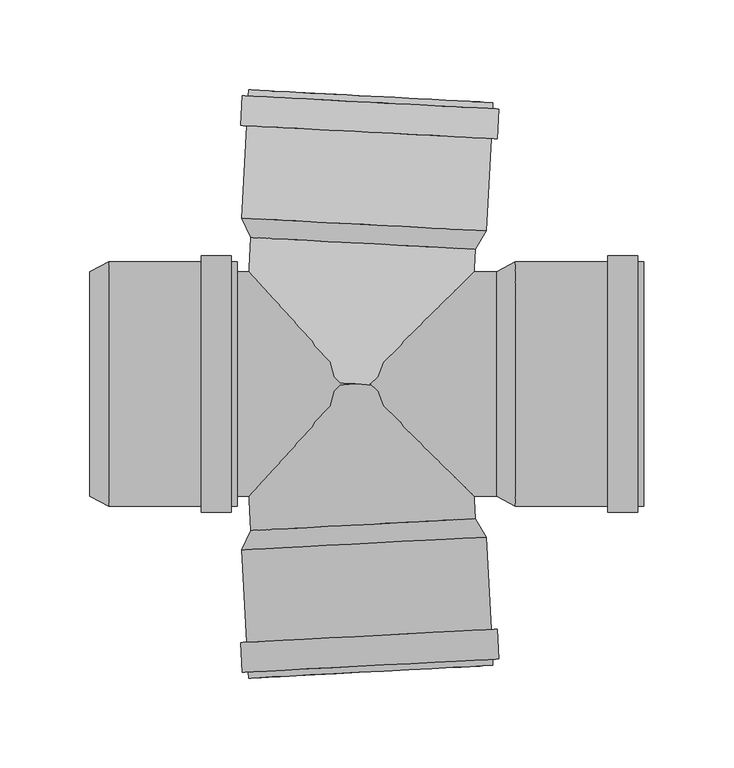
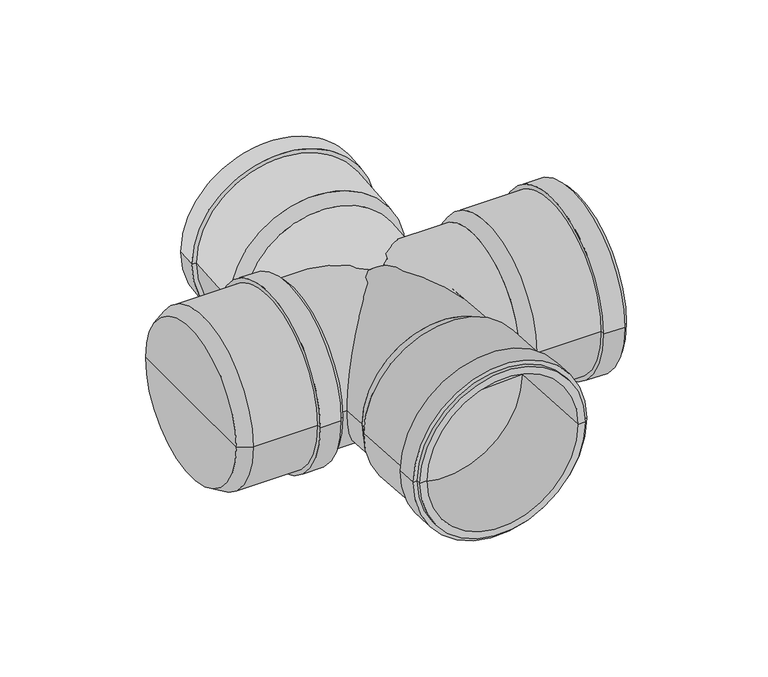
"""IFC4 building model written with IfcOpenShell, lengths in millimetres: pipe fitting geometry, pf_HTDA : pf_HTDA."""

from ifc_helpers import new_model, si_unit, point, frame, origin, origin_2d, place, context, project, spatial, polyline, circle_curve, trimmed, segment, composite_curve, outline, extrude, source, transform, mapped, element, save
from ifc_brep_helpers import plane_surface, cylinder_surface, revolved_surface, advanced_brep


def pipe_fitting_0927ca27(model_context):
    return source(origin(), model_context, "Body", "SolidModel", [
        advanced_brep(
        [(66.5174849, 75.0215583, 0.0), (-58.311207, 81.5635528, 0.0), (-63.3540048, 92.3422443, 0.0), (72.6593378, 85.214087, 0.0), (4.103139, 78.2925555, 0.0), (76.4013587, 156.6160988, 0.0), (-59.6119839, 163.744256, 0.0), (-54.0196585, 163.4511746, 0.0), (70.8090333, 156.9091801, 0.0), (76.2234164, 153.2207583, 0.0), (-59.7899262, 160.3489156, 0.0), (79.6187569, 153.0428161, 0.0), (-63.1852666, 160.5268578, 0.0), (78.74998, 136.4655658, 0.0), (-64.0540435, 143.9496076, 0.0), (75.3546396, 136.6435081, 0.0), (-60.6587031, 143.7716653, 0.0), (67.0670124, 85.5071684, 0.0), (-57.7616794, 92.0491629, 0.0), (4.6526665, 88.7781656, 0.0)],
        [
            (0, 1, circle_curve(frame((4.103139, 78.2925555, 0.0), z_axis=(0.05233595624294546, 0.9986295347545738, 0.0), x_axis=(-0.9986295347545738, 0.05233595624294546, 0.0)), 62.5)),
            (1, 2),
            (2, 3, circle_curve(frame((4.6526665, 88.7781656, 0.0), z_axis=(-0.05233595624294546, -0.9986295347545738, 0.0), x_axis=(-0.9986295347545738, 0.05233595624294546, 0.0)), 68.1)),
            (3, 0),
            (1, 0, circle_curve(frame((4.103139, 78.2925555, 0.0), z_axis=(0.05233595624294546, 0.9986295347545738, 0.0), x_axis=(-0.9986295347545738, 0.05233595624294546, 0.0)), 62.5)),
            (3, 2, circle_curve(frame((4.6526665, 88.7781656, 0.0), z_axis=(-0.05233595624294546, -0.9986295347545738, 0.0), x_axis=(-0.9986295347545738, 0.05233595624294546, 0.0)), 68.1)),
            (4, 1),
            (0, 4),
            (5, 6, circle_curve(frame((8.3946874, 160.1801774, 0.0), z_axis=(0.05233595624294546, 0.9986295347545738, 0.0), x_axis=(-0.9986295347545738, 0.05233595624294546, 0.0)), 68.1)),
            (6, 7),
            (7, 8, circle_curve(frame((8.3946874, 160.1801774, 0.0), z_axis=(-0.05233595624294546, -0.9986295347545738, 0.0), x_axis=(-0.9986295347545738, 0.05233595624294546, 0.0)), 62.5)),
            (8, 5),
            (6, 5, circle_curve(frame((8.3946874, 160.1801774, 0.0), z_axis=(0.05233595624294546, 0.9986295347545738, 0.0), x_axis=(-0.9986295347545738, 0.05233595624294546, 0.0)), 68.1)),
            (8, 7, circle_curve(frame((8.3946874, 160.1801774, 0.0), z_axis=(-0.05233595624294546, -0.9986295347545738, 0.0), x_axis=(-0.9986295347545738, 0.05233595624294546, 0.0)), 62.5)),
            (9, 10, circle_curve(frame((8.2167451, 156.784837, 0.0), z_axis=(0.05233595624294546, 0.9986295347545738, 0.0), x_axis=(-0.9986295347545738, 0.05233595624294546, 0.0)), 68.1)),
            (10, 6),
            (5, 9),
            (10, 9, circle_curve(frame((8.2167451, 156.784837, 0.0), z_axis=(0.05233595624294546, 0.9986295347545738, 0.0), x_axis=(-0.9986295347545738, 0.05233595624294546, 0.0)), 68.1)),
            (11, 12, circle_curve(frame((8.2167451, 156.784837, 0.0), z_axis=(0.05233595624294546, 0.9986295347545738, 0.0), x_axis=(-0.9986295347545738, 0.05233595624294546, 0.0)), 71.5)),
            (12, 10),
            (9, 11),
            (12, 11, circle_curve(frame((8.2167451, 156.784837, 0.0), z_axis=(0.05233595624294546, 0.9986295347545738, 0.0), x_axis=(-0.9986295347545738, 0.05233595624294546, 0.0)), 71.5)),
            (13, 14, circle_curve(frame((7.3479683, 140.2075867, 0.0), z_axis=(0.05233595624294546, 0.9986295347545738, 0.0), x_axis=(-0.9986295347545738, 0.05233595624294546, 0.0)), 71.5)),
            (14, 12),
            (11, 13),
            (14, 13, circle_curve(frame((7.3479683, 140.2075867, 0.0), z_axis=(0.05233595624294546, 0.9986295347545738, 0.0), x_axis=(-0.9986295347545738, 0.05233595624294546, 0.0)), 71.5)),
            (15, 16, circle_curve(frame((7.3479683, 140.2075867, 0.0), z_axis=(0.05233595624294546, 0.9986295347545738, 0.0), x_axis=(-0.9986295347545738, 0.05233595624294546, 0.0)), 68.1)),
            (16, 14),
            (13, 15),
            (16, 15, circle_curve(frame((7.3479683, 140.2075867, 0.0), z_axis=(0.05233595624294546, 0.9986295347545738, 0.0), x_axis=(-0.9986295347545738, 0.05233595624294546, 0.0)), 68.1)),
            (2, 16),
            (15, 3),
            (17, 18, circle_curve(frame((4.6526665, 88.7781656, 0.0), z_axis=(0.05233595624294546, 0.9986295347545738, 0.0), x_axis=(-0.9986295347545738, 0.05233595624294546, 0.0)), 62.5)),
            (18, 19),
            (19, 17),
            (18, 17, circle_curve(frame((4.6526665, 88.7781656, 0.0), z_axis=(0.05233595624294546, 0.9986295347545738, 0.0), x_axis=(-0.9986295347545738, 0.05233595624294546, 0.0)), 62.5)),
            (7, 18),
            (17, 8),
        ],
        [
            revolved_surface(polyline([(-63.3540048, 92.3422443, 0.0), (-58.311207, 81.5635528, 0.0)]), (4.103139, 78.2925555, 0.0), (-0.05233595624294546, -0.9986295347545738, 0.0)),
            plane_surface(frame((4.103139, 78.2925555, 0.0), z_axis=(-0.05233595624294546, -0.9986295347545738, 0.0), x_axis=(-0.9986295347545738, 0.05233595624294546, 0.0))),
            plane_surface(frame((8.3946874, 160.1801774, 0.0), z_axis=(0.05233595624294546, 0.9986295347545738, 0.0), x_axis=(-0.9986295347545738, 0.05233595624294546, 0.0))),
            cylinder_surface(frame((4.103139, 78.2925555, 0.0), z_axis=(-0.05233595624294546, -0.9986295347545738, 0.0), x_axis=(-0.9986295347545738, 0.05233595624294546, 0.0)), 68.1),
            plane_surface(frame((8.2167451, 156.784837, 0.0), z_axis=(0.05233595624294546, 0.9986295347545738, 0.0), x_axis=(-0.9986295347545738, 0.05233595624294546, 0.0))),
            cylinder_surface(frame((4.103139, 78.2925555, 0.0), z_axis=(-0.05233595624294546, -0.9986295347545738, 0.0), x_axis=(-0.9986295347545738, 0.05233595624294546, 0.0)), 71.5),
            plane_surface(frame((7.3479683, 140.2075867, 0.0), z_axis=(-0.05233595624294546, -0.9986295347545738, 0.0), x_axis=(-0.9986295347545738, 0.05233595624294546, 0.0))),
            plane_surface(frame((4.6526665, 88.7781656, 0.0), z_axis=(0.05233595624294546, 0.9986295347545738, 0.0), x_axis=(-0.9986295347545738, 0.05233595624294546, 0.0))),
            revolved_surface(polyline([(-57.76167938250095, 92.04916286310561, 0.0), (-54.019658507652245, 163.45117466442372, 0.0)]), (4.103139, 78.2925555, 0.0), (-0.05233595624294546, -0.9986295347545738, 0.0)),
        ],
        [
            (0, [[1, 2, 3, 4]]),
            (0, [[5, -4, 6, -2]]),
            (1, [[7, -1, 8]]),
            (1, [[-8, -5, -7]]),
            (2, [[9, 10, 11, 12]]),
            (2, [[13, -12, 14, -10]]),
            (3, [[15, 16, -9, 17]]),
            (3, [[18, -17, -13, -16]]),
            (4, [[19, 20, -15, 21]]),
            (4, [[22, -21, -18, -20]]),
            (5, [[23, 24, -19, 25]]),
            (5, [[26, -25, -22, -24]]),
            (6, [[27, 28, -23, 29]]),
            (6, [[30, -29, -26, -28]]),
            (3, [[-3, 31, -27, 32]]),
            (3, [[-6, -32, -30, -31]]),
            (7, [[33, 34, 35]]),
            (7, [[36, -35, -34]]),
            (8, [[-11, 37, -33, 38]]),
            (8, [[-14, -38, -36, -37]]),
        ],
    ),
        advanced_brep(
        [(-58.311207, -81.5635528, 0.0), (66.5174849, -75.0215583, 0.0), (72.6593378, -85.214087, 0.0), (-63.3540048, -92.3422443, 0.0), (4.103139, -78.2925555, 0.0), (-59.6119839, -163.744256, 0.0), (76.4013587, -156.6160988, 0.0), (70.8090333, -156.9091801, 0.0), (-54.0196585, -163.4511746, 0.0), (-59.7899262, -160.3489156, 0.0), (76.2234164, -153.2207583, 0.0), (-63.1852666, -160.5268578, 0.0), (79.6187569, -153.0428161, 0.0), (-64.0540435, -143.9496076, 0.0), (78.74998, -136.4655658, 0.0), (-60.6587031, -143.7716653, 0.0), (75.3546396, -136.6435081, 0.0), (-57.7616794, -92.0491629, 0.0), (67.0670124, -85.5071684, 0.0), (4.6526665, -88.7781656, 0.0)],
        [
            (0, 1, circle_curve(frame((4.103139, -78.2925555, 0.0), z_axis=(0.05233595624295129, -0.9986295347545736, 0.0), x_axis=(0.9986295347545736, 0.05233595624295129, 0.0)), 62.5)),
            (1, 2),
            (2, 3, circle_curve(frame((4.6526665, -88.7781656, 0.0), z_axis=(-0.05233595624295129, 0.9986295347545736, 0.0), x_axis=(0.9986295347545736, 0.05233595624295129, 0.0)), 68.1)),
            (3, 0),
            (1, 0, circle_curve(frame((4.103139, -78.2925555, 0.0), z_axis=(0.05233595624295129, -0.9986295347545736, 0.0), x_axis=(0.9986295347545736, 0.05233595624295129, 0.0)), 62.5)),
            (3, 2, circle_curve(frame((4.6526665, -88.7781656, 0.0), z_axis=(-0.05233595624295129, 0.9986295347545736, 0.0), x_axis=(0.9986295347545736, 0.05233595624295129, 0.0)), 68.1)),
            (4, 1),
            (0, 4),
            (5, 6, circle_curve(frame((8.3946874, -160.1801774, 0.0), z_axis=(0.05233595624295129, -0.9986295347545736, 0.0), x_axis=(0.9986295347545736, 0.05233595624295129, 0.0)), 68.1)),
            (6, 7),
            (7, 8, circle_curve(frame((8.3946874, -160.1801774, 0.0), z_axis=(-0.05233595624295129, 0.9986295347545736, 0.0), x_axis=(0.9986295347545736, 0.05233595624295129, 0.0)), 62.5)),
            (8, 5),
            (6, 5, circle_curve(frame((8.3946874, -160.1801774, 0.0), z_axis=(0.05233595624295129, -0.9986295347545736, 0.0), x_axis=(0.9986295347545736, 0.05233595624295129, 0.0)), 68.1)),
            (8, 7, circle_curve(frame((8.3946874, -160.1801774, 0.0), z_axis=(-0.05233595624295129, 0.9986295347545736, 0.0), x_axis=(0.9986295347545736, 0.05233595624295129, 0.0)), 62.5)),
            (9, 10, circle_curve(frame((8.2167451, -156.784837, 0.0), z_axis=(0.05233595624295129, -0.9986295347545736, 0.0), x_axis=(0.9986295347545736, 0.05233595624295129, 0.0)), 68.1)),
            (10, 6),
            (5, 9),
            (10, 9, circle_curve(frame((8.2167451, -156.784837, 0.0), z_axis=(0.05233595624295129, -0.9986295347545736, 0.0), x_axis=(0.9986295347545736, 0.05233595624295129, 0.0)), 68.1)),
            (11, 12, circle_curve(frame((8.2167451, -156.784837, 0.0), z_axis=(0.05233595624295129, -0.9986295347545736, 0.0), x_axis=(0.9986295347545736, 0.05233595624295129, 0.0)), 71.5)),
            (12, 10),
            (9, 11),
            (12, 11, circle_curve(frame((8.2167451, -156.784837, 0.0), z_axis=(0.05233595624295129, -0.9986295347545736, 0.0), x_axis=(0.9986295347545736, 0.05233595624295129, 0.0)), 71.5)),
            (13, 14, circle_curve(frame((7.3479683, -140.2075867, 0.0), z_axis=(0.05233595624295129, -0.9986295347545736, 0.0), x_axis=(0.9986295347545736, 0.05233595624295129, 0.0)), 71.5)),
            (14, 12),
            (11, 13),
            (14, 13, circle_curve(frame((7.3479683, -140.2075867, 0.0), z_axis=(0.05233595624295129, -0.9986295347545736, 0.0), x_axis=(0.9986295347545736, 0.05233595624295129, 0.0)), 71.5)),
            (15, 16, circle_curve(frame((7.3479683, -140.2075867, 0.0), z_axis=(0.05233595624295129, -0.9986295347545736, 0.0), x_axis=(0.9986295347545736, 0.05233595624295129, 0.0)), 68.1)),
            (16, 14),
            (13, 15),
            (16, 15, circle_curve(frame((7.3479683, -140.2075867, 0.0), z_axis=(0.05233595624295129, -0.9986295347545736, 0.0), x_axis=(0.9986295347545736, 0.05233595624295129, 0.0)), 68.1)),
            (2, 16),
            (15, 3),
            (17, 18, circle_curve(frame((4.6526665, -88.7781656, 0.0), z_axis=(0.05233595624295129, -0.9986295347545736, 0.0), x_axis=(0.9986295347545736, 0.05233595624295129, 0.0)), 62.5)),
            (18, 19),
            (19, 17),
            (18, 17, circle_curve(frame((4.6526665, -88.7781656, 0.0), z_axis=(0.05233595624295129, -0.9986295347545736, 0.0), x_axis=(0.9986295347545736, 0.05233595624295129, 0.0)), 62.5)),
            (7, 18),
            (17, 8),
        ],
        [
            revolved_surface(polyline([(72.6593378, -85.214087, 0.0), (66.5174849, -75.0215583, 0.0)]), (4.103139, -78.2925555, 0.0), (-0.05233595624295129, 0.9986295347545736, 0.0)),
            plane_surface(frame((4.103139, -78.2925555, 0.0), z_axis=(-0.05233595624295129, 0.9986295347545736, 0.0), x_axis=(0.9986295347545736, 0.05233595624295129, 0.0))),
            plane_surface(frame((8.3946874, -160.1801774, 0.0), z_axis=(0.05233595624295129, -0.9986295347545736, 0.0), x_axis=(0.9986295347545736, 0.05233595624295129, 0.0))),
            cylinder_surface(frame((4.103139, -78.2925555, 0.0), z_axis=(-0.05233595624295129, 0.9986295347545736, 0.0), x_axis=(0.9986295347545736, 0.05233595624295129, 0.0)), 68.1),
            plane_surface(frame((8.2167451, -156.784837, 0.0), z_axis=(0.05233595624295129, -0.9986295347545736, 0.0), x_axis=(0.9986295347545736, 0.05233595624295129, 0.0))),
            cylinder_surface(frame((4.103139, -78.2925555, 0.0), z_axis=(-0.05233595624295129, 0.9986295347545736, 0.0), x_axis=(0.9986295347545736, 0.05233595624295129, 0.0)), 71.5),
            plane_surface(frame((7.3479683, -140.2075867, 0.0), z_axis=(-0.05233595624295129, 0.9986295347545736, 0.0), x_axis=(0.9986295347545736, 0.05233595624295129, 0.0))),
            plane_surface(frame((4.6526665, -88.7781656, 0.0), z_axis=(0.05233595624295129, -0.9986295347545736, 0.0), x_axis=(0.9986295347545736, 0.05233595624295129, 0.0))),
            revolved_surface(polyline([(67.06701246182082, -85.50716833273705, 0.0), (70.80903333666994, -156.90918013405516, 0.0)]), (4.103139, -78.2925555, 0.0), (-0.05233595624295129, 0.9986295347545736, 0.0)),
        ],
        [
            (0, [[1, 2, 3, 4]]),
            (0, [[5, -4, 6, -2]]),
            (1, [[7, -1, 8]]),
            (1, [[-8, -5, -7]]),
            (2, [[9, 10, 11, 12]]),
            (2, [[13, -12, 14, -10]]),
            (3, [[15, 16, -9, 17]]),
            (3, [[18, -17, -13, -16]]),
            (4, [[19, 20, -15, 21]]),
            (4, [[22, -21, -18, -20]]),
            (5, [[23, 24, -19, 25]]),
            (5, [[26, -25, -22, -24]]),
            (6, [[27, 28, -23, 29]]),
            (6, [[30, -29, -26, -28]]),
            (3, [[-3, 31, -27, 32]]),
            (3, [[-6, -32, -30, -31]]),
            (7, [[33, 34, 35]]),
            (7, [[36, -35, -34]]),
            (8, [[-11, 37, -33, 38]]),
            (8, [[-14, -38, -36, -37]]),
        ],
    ),
        advanced_brep(
        [(78.4, -62.5, 0.0), (78.4, 62.5, 0.0), (88.9, 68.1, 0.0), (88.9, -68.1, 0.0), (78.4, 0.0, 0.0), (160.4, -68.1, 0.0), (160.4, 68.1, 0.0), (160.4, 62.5, 0.0), (160.4, -62.5, 0.0), (157.0, -68.1, 0.0), (157.0, 68.1, 0.0), (157.0, -71.5, 0.0), (157.0, 71.5, 0.0), (140.4, -71.5, 0.0), (140.4, 71.5, 0.0), (140.4, -68.1, 0.0), (140.4, 68.1, 0.0), (88.9, -62.5, 0.0), (88.9, 62.5, 0.0), (88.9, 0.0, 0.0)],
        [
            (0, 1, circle_curve(frame((78.4, 0.0, 0.0), z_axis=(1.0, 0.0, 0.0), x_axis=(0.0, 1.0, 0.0)), 62.5)),
            (1, 2),
            (2, 3, circle_curve(frame((88.9, 0.0, 0.0), z_axis=(-1.0, 0.0, 0.0), x_axis=(0.0, 1.0, 0.0)), 68.1)),
            (3, 0),
            (1, 0, circle_curve(frame((78.4, 0.0, 0.0), z_axis=(1.0, 0.0, 0.0), x_axis=(0.0, 1.0, 0.0)), 62.5)),
            (3, 2, circle_curve(frame((88.9, 0.0, 0.0), z_axis=(-1.0, 0.0, 0.0), x_axis=(0.0, 1.0, 0.0)), 68.1)),
            (4, 1),
            (0, 4),
            (5, 6, circle_curve(frame((160.4, 0.0, 0.0), z_axis=(1.0, 0.0, 0.0), x_axis=(0.0, 1.0, 0.0)), 68.1)),
            (6, 7),
            (7, 8, circle_curve(frame((160.4, 0.0, 0.0), z_axis=(-1.0, 0.0, 0.0), x_axis=(0.0, 1.0, 0.0)), 62.5)),
            (8, 5),
            (6, 5, circle_curve(frame((160.4, 0.0, 0.0), z_axis=(1.0, 0.0, 0.0), x_axis=(0.0, 1.0, 0.0)), 68.1)),
            (8, 7, circle_curve(frame((160.4, 0.0, 0.0), z_axis=(-1.0, 0.0, 0.0), x_axis=(0.0, 1.0, 0.0)), 62.5)),
            (9, 10, circle_curve(frame((157.0, 0.0, 0.0), z_axis=(1.0, 0.0, 0.0), x_axis=(0.0, 1.0, 0.0)), 68.1)),
            (10, 6),
            (5, 9),
            (10, 9, circle_curve(frame((157.0, 0.0, 0.0), z_axis=(1.0, 0.0, 0.0), x_axis=(0.0, 1.0, 0.0)), 68.1)),
            (11, 12, circle_curve(frame((157.0, 0.0, 0.0), z_axis=(1.0, 0.0, 0.0), x_axis=(0.0, 1.0, 0.0)), 71.5)),
            (12, 10),
            (9, 11),
            (12, 11, circle_curve(frame((157.0, 0.0, 0.0), z_axis=(1.0, 0.0, 0.0), x_axis=(0.0, 1.0, 0.0)), 71.5)),
            (13, 14, circle_curve(frame((140.4, 0.0, 0.0), z_axis=(1.0, 0.0, 0.0), x_axis=(0.0, 1.0, 0.0)), 71.5)),
            (14, 12),
            (11, 13),
            (14, 13, circle_curve(frame((140.4, 0.0, 0.0), z_axis=(1.0, 0.0, 0.0), x_axis=(0.0, 1.0, 0.0)), 71.5)),
            (15, 16, circle_curve(frame((140.4, 0.0, 0.0), z_axis=(1.0, 0.0, 0.0), x_axis=(0.0, 1.0, 0.0)), 68.1)),
            (16, 14),
            (13, 15),
            (16, 15, circle_curve(frame((140.4, 0.0, 0.0), z_axis=(1.0, 0.0, 0.0), x_axis=(0.0, 1.0, 0.0)), 68.1)),
            (2, 16),
            (15, 3),
            (17, 18, circle_curve(frame((88.9, 0.0, 0.0), z_axis=(1.0, 0.0, 0.0), x_axis=(0.0, 1.0, 0.0)), 62.5)),
            (18, 19),
            (19, 17),
            (18, 17, circle_curve(frame((88.9, 0.0, 0.0), z_axis=(1.0, 0.0, 0.0), x_axis=(0.0, 1.0, 0.0)), 62.5)),
            (7, 18),
            (17, 8),
        ],
        [
            revolved_surface(polyline([(88.9, 68.1, 0.0), (78.4, 62.5, 0.0)]), (78.4, 0.0, 0.0), (-1.0, 0.0, 0.0)),
            plane_surface(frame((78.4, 0.0, 0.0), z_axis=(-1.0, 0.0, 0.0), x_axis=(0.0, 1.0, 0.0))),
            plane_surface(frame((160.4, 0.0, 0.0), z_axis=(1.0, 0.0, 0.0), x_axis=(0.0, 1.0, 0.0))),
            cylinder_surface(frame((78.4, 0.0, 0.0), z_axis=(-1.0, 0.0, 0.0), x_axis=(0.0, 1.0, 0.0)), 68.1),
            plane_surface(frame((157.0, 0.0, 0.0), z_axis=(1.0, 0.0, 0.0), x_axis=(0.0, 1.0, 0.0))),
            cylinder_surface(frame((78.4, 0.0, 0.0), z_axis=(-1.0, 0.0, 0.0), x_axis=(0.0, 1.0, 0.0)), 71.5),
            plane_surface(frame((140.4, 0.0, 0.0), z_axis=(-1.0, 0.0, 0.0), x_axis=(0.0, 1.0, 0.0))),
            plane_surface(frame((88.9, 0.0, 0.0), z_axis=(1.0, 0.0, 0.0), x_axis=(0.0, 1.0, 0.0))),
            revolved_surface(polyline([(88.9, 62.5, 0.0), (160.4, 62.5, 0.0)]), (78.4, 0.0, 0.0), (-1.0, 0.0, 0.0)),
        ],
        [
            (0, [[1, 2, 3, 4]]),
            (0, [[5, -4, 6, -2]]),
            (1, [[7, -1, 8]]),
            (1, [[-8, -5, -7]]),
            (2, [[9, 10, 11, 12]]),
            (2, [[13, -12, 14, -10]]),
            (3, [[15, 16, -9, 17]]),
            (3, [[18, -17, -13, -16]]),
            (4, [[19, 20, -15, 21]]),
            (4, [[22, -21, -18, -20]]),
            (5, [[23, 24, -19, 25]]),
            (5, [[26, -25, -22, -24]]),
            (6, [[27, 28, -23, 29]]),
            (6, [[30, -29, -26, -28]]),
            (3, [[-3, 31, -27, 32]]),
            (3, [[-6, -32, -30, -31]]),
            (7, [[33, 34, 35]]),
            (7, [[36, -35, -34]]),
            (8, [[-11, 37, -33, 38]]),
            (8, [[-14, -38, -36, -37]]),
        ],
    ),
        advanced_brep(
        [(-148.0, -62.5, 0.0), (-148.0, 62.5, 0.0), (-137.5, 68.1, 0.0), (-137.5, -68.1, 0.0), (-148.0, 0.0, 0.0), (-66.0, -68.1, 0.0), (-66.0, 68.1, 0.0), (-66.0, 62.5, 0.0), (-66.0, -62.5, 0.0), (-69.4, -68.1, 0.0), (-69.4, 68.1, 0.0), (-69.4, -71.5, 0.0), (-69.4, 71.5, 0.0), (-86.0, -71.5, 0.0), (-86.0, 71.5, 0.0), (-86.0, -68.1, 0.0), (-86.0, 68.1, 0.0), (-137.5, -62.5, 0.0), (-137.5, 62.5, 0.0), (-137.5, 0.0, 0.0)],
        [
            (0, 1, circle_curve(frame((-148.0, 0.0, 0.0), z_axis=(1.0, 0.0, 0.0), x_axis=(0.0, 1.0, 0.0)), 62.5)),
            (1, 2),
            (2, 3, circle_curve(frame((-137.5, 0.0, 0.0), z_axis=(-1.0, 0.0, 0.0), x_axis=(0.0, 1.0, 0.0)), 68.1)),
            (3, 0),
            (1, 0, circle_curve(frame((-148.0, 0.0, 0.0), z_axis=(1.0, 0.0, 0.0), x_axis=(0.0, 1.0, 0.0)), 62.5)),
            (3, 2, circle_curve(frame((-137.5, 0.0, 0.0), z_axis=(-1.0, 0.0, 0.0), x_axis=(0.0, 1.0, 0.0)), 68.1)),
            (4, 1),
            (0, 4),
            (5, 6, circle_curve(frame((-66.0, 0.0, 0.0), z_axis=(1.0, 0.0, 0.0), x_axis=(0.0, 1.0, 0.0)), 68.1)),
            (6, 7),
            (7, 8, circle_curve(frame((-66.0, 0.0, 0.0), z_axis=(-1.0, 0.0, 0.0), x_axis=(0.0, 1.0, 0.0)), 62.5)),
            (8, 5),
            (6, 5, circle_curve(frame((-66.0, 0.0, 0.0), z_axis=(1.0, 0.0, 0.0), x_axis=(0.0, 1.0, 0.0)), 68.1)),
            (8, 7, circle_curve(frame((-66.0, 0.0, 0.0), z_axis=(-1.0, 0.0, 0.0), x_axis=(0.0, 1.0, 0.0)), 62.5)),
            (9, 10, circle_curve(frame((-69.4, 0.0, 0.0), z_axis=(1.0, 0.0, 0.0), x_axis=(0.0, 1.0, 0.0)), 68.1)),
            (10, 6),
            (5, 9),
            (10, 9, circle_curve(frame((-69.4, 0.0, 0.0), z_axis=(1.0, 0.0, 0.0), x_axis=(0.0, 1.0, 0.0)), 68.1)),
            (11, 12, circle_curve(frame((-69.4, 0.0, 0.0), z_axis=(1.0, 0.0, 0.0), x_axis=(0.0, 1.0, 0.0)), 71.5)),
            (12, 10),
            (9, 11),
            (12, 11, circle_curve(frame((-69.4, 0.0, 0.0), z_axis=(1.0, 0.0, 0.0), x_axis=(0.0, 1.0, 0.0)), 71.5)),
            (13, 14, circle_curve(frame((-86.0, 0.0, 0.0), z_axis=(1.0, 0.0, 0.0), x_axis=(0.0, 1.0, 0.0)), 71.5)),
            (14, 12),
            (11, 13),
            (14, 13, circle_curve(frame((-86.0, 0.0, 0.0), z_axis=(1.0, 0.0, 0.0), x_axis=(0.0, 1.0, 0.0)), 71.5)),
            (15, 16, circle_curve(frame((-86.0, 0.0, 0.0), z_axis=(1.0, 0.0, 0.0), x_axis=(0.0, 1.0, 0.0)), 68.1)),
            (16, 14),
            (13, 15),
            (16, 15, circle_curve(frame((-86.0, 0.0, 0.0), z_axis=(1.0, 0.0, 0.0), x_axis=(0.0, 1.0, 0.0)), 68.1)),
            (2, 16),
            (15, 3),
            (17, 18, circle_curve(frame((-137.5, 0.0, 0.0), z_axis=(1.0, 0.0, 0.0), x_axis=(0.0, 1.0, 0.0)), 62.5)),
            (18, 19),
            (19, 17),
            (18, 17, circle_curve(frame((-137.5, 0.0, 0.0), z_axis=(1.0, 0.0, 0.0), x_axis=(0.0, 1.0, 0.0)), 62.5)),
            (7, 18),
            (17, 8),
        ],
        [
            revolved_surface(polyline([(-137.5, 68.1, 0.0), (-148.0, 62.5, 0.0)]), (-148.0, 0.0, 0.0), (-1.0, 0.0, 0.0)),
            plane_surface(frame((-148.0, 0.0, 0.0), z_axis=(-1.0, 0.0, 0.0), x_axis=(0.0, 1.0, 0.0))),
            plane_surface(frame((-66.0, 0.0, 0.0), z_axis=(1.0, 0.0, 0.0), x_axis=(0.0, 1.0, 0.0))),
            cylinder_surface(frame((-148.0, 0.0, 0.0), z_axis=(-1.0, 0.0, 0.0), x_axis=(0.0, 1.0, 0.0)), 68.1),
            plane_surface(frame((-69.4, 0.0, 0.0), z_axis=(1.0, 0.0, 0.0), x_axis=(0.0, 1.0, 0.0))),
            cylinder_surface(frame((-148.0, 0.0, 0.0), z_axis=(-1.0, 0.0, 0.0), x_axis=(0.0, 1.0, 0.0)), 71.5),
            plane_surface(frame((-86.0, 0.0, 0.0), z_axis=(-1.0, 0.0, 0.0), x_axis=(0.0, 1.0, 0.0))),
            plane_surface(frame((-137.5, 0.0, 0.0), z_axis=(1.0, 0.0, 0.0), x_axis=(0.0, 1.0, 0.0))),
            revolved_surface(polyline([(-137.5, 62.5, 0.0), (-66.0, 62.5, 0.0)]), (-148.0, 0.0, 0.0), (-1.0, 0.0, 0.0)),
        ],
        [
            (0, [[1, 2, 3, 4]]),
            (0, [[5, -4, 6, -2]]),
            (1, [[7, -1, 8]]),
            (1, [[-8, -5, -7]]),
            (2, [[9, 10, 11, 12]]),
            (2, [[13, -12, 14, -10]]),
            (3, [[15, 16, -9, 17]]),
            (3, [[18, -17, -13, -16]]),
            (4, [[19, 20, -15, 21]]),
            (4, [[22, -21, -18, -20]]),
            (5, [[23, 24, -19, 25]]),
            (5, [[26, -25, -22, -24]]),
            (6, [[27, 28, -23, 29]]),
            (6, [[30, -29, -26, -28]]),
            (3, [[-3, 31, -27, 32]]),
            (3, [[-6, -32, -30, -31]]),
            (7, [[33, 34, 35]]),
            (7, [[36, -35, -34]]),
            (8, [[-11, 37, -33, 38]]),
            (8, [[-14, -38, -36, -37]]),
        ],
    ),
        extrude(outline(composite_curve([segment(trimmed(circle_curve(origin_2d(), 62.5), [point((0.0, 62.5))], [point((0.0, -62.5))], False, "CARTESIAN"), True, "CONTINUOUS"), segment(trimmed(circle_curve(origin_2d(), 62.5), [point((0.0, -62.5))], [point((0.0, 62.5))], False, "CARTESIAN"), True, "CONTINUOUS")], self_intersect=False)), frame((0.0, 0.0, 0.0), z_axis=(0.05233595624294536, 0.9986295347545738, 0.0), x_axis=(0.0, 0.0, 1.0)), (0.0, 0.0, 1.0), 78.4),
        extrude(outline(composite_curve([segment(trimmed(circle_curve(origin_2d(), 62.5), [point((0.0, -62.5000001))], [point((0.0, 62.5))], False, "CARTESIAN"), True, "CONTINUOUS"), segment(trimmed(circle_curve(origin_2d(), 62.5), [point((0.0, 62.5))], [point((0.0, -62.5000001))], False, "CARTESIAN"), True, "CONTINUOUS")], self_intersect=False)), frame((4.103139, -78.2925555, 0.0), z_axis=(-0.05233595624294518, 0.9986295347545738, 0.0), x_axis=(0.0, 0.0, 1.0)), (0.0, 0.0, 1.0), 78.4),
        extrude(outline(composite_curve([segment(trimmed(circle_curve(origin_2d(), 62.5), [point((-62.5, 0.0))], [point((62.5, 0.0))], False, "CARTESIAN"), True, "CONTINUOUS"), segment(trimmed(circle_curve(origin_2d(), 62.5), [point((62.5, 0.0))], [point((-62.5, 0.0))], False, "CARTESIAN"), True, "CONTINUOUS")], self_intersect=False)), frame((-137.5, 0.0, 0.0), z_axis=(1.0, 0.0, 0.0), x_axis=(0.0, 1.0, 0.0)), (0.0, 0.0, 1.0), 215.9),
    ])


if __name__ == "__main__":
    model = new_model("IFC4")
    model_context = context("Model", 3, world=origin())
    ifc_project = project(units=[si_unit("LENGTHUNIT", "METRE", prefix="MILLI")], contexts=[model_context])
    site = spatial("IfcSite", under=ifc_project)
    building = spatial("IfcBuilding", under=site)
    placement = place(None, origin())
    pipe_fitting_shape = pipe_fitting_0927ca27(model_context)
    element("IfcPipeFitting", 1, ObjectType="pf_HTDA : pf_HTDA", at=placement, inside=building, context=model_context, shape_type="MappedRepresentation", body=[
        mapped(pipe_fitting_shape, transform((0.0, 0.0, 0.0), x_axis=(1.0, 0.0, 0.0), y_axis=(0.0, 1.0, 0.0), z_axis=(0.0, 0.0, 1.0))),
    ])
    save(model, "model.ifc")
